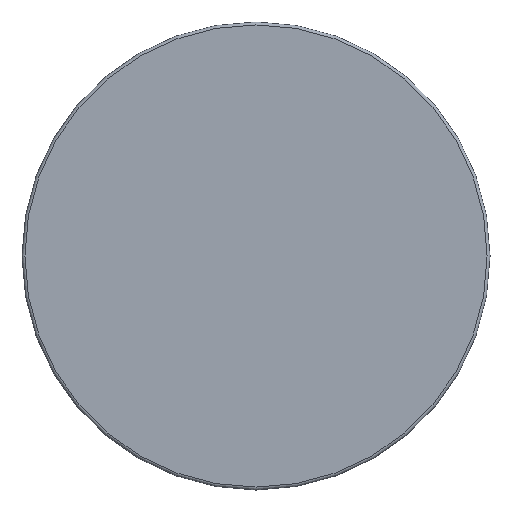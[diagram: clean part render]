
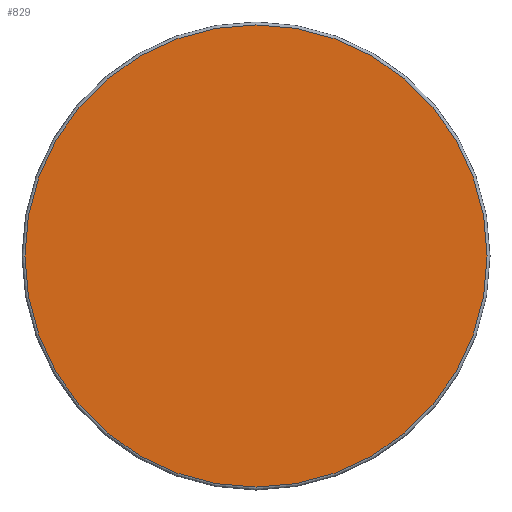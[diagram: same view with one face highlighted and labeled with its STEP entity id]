
A CAD part, left-side view. The second image highlights one B-rep face of the part: STEP entity #829.
In plain terms, the highlighted planar face has unit normal (-1, 0, 0).
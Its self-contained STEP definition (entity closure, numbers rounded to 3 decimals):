
#806=CARTESIAN_POINT('',(0.0,79.0,0.0));
#807=VERTEX_POINT('',#806);
#808=CARTESIAN_POINT('',(0.0,0.0,0.0));
#809=DIRECTION('',(1.0,0.0,0.0));
#810=DIRECTION('',(0.0,-1.0,0.0));
#811=AXIS2_PLACEMENT_3D('',#808,#809,#810);
#812=CIRCLE('',#811,79.0);
#813=EDGE_CURVE('',#807,#807,#812,.T.);
#821=CARTESIAN_POINT('',(0.0,59.5,0.));
#822=DIRECTION('',(-1.0,0.0,0.0));
#823=DIRECTION('',(0.0,0.0,1.0));
#824=AXIS2_PLACEMENT_3D('',#821,#822,#823);
#825=PLANE('',#824);
#826=ORIENTED_EDGE('',*,*,#813,.F.);
#827=EDGE_LOOP('',(#826));
#828=FACE_OUTER_BOUND('',#827,.T.);
#829=ADVANCED_FACE('',(#828),#825,.T.);
